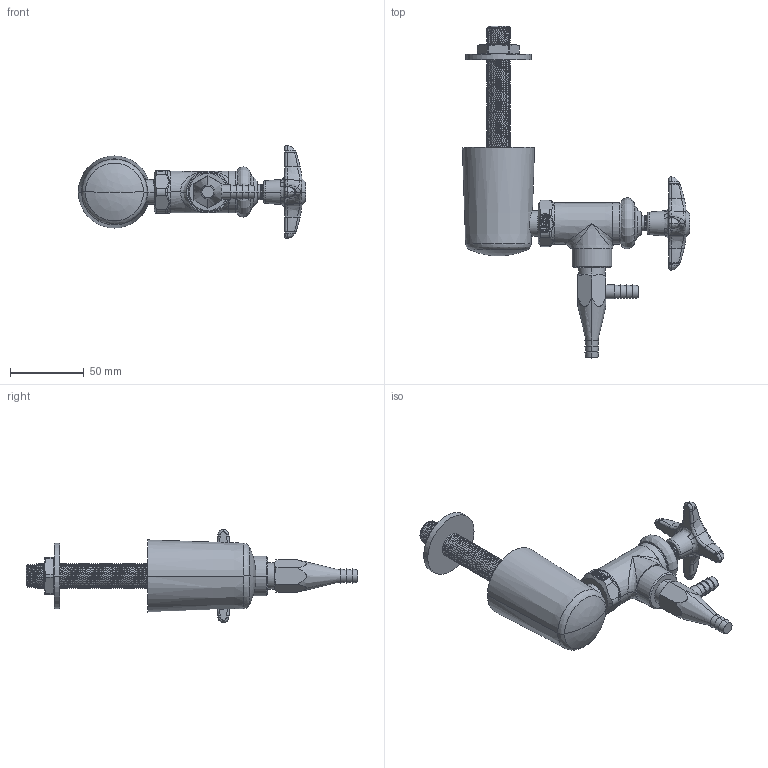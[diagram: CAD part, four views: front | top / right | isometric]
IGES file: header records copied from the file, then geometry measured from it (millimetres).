
Start section:  PTC IGES file: LWV2-C32-10.igs
Global section: file name: LWV2-C32-10.igs; native system: Creo Parametric by PTC Inc.; preprocessor: 2014500; author: usch_engrender; organization: Unknown; date: 20151113.094148; units: inch
Bounding box: 154.39 x 225.55 x 63.41 mm (x, y, z)
Volume: 222599.8 mm3; surface area: 43645.9 mm2
Topology: 1 solids, 4 shells, 612 faces, 1474 edges, 890 vertices
Faces by surface type: bspline 310, revolution 302
